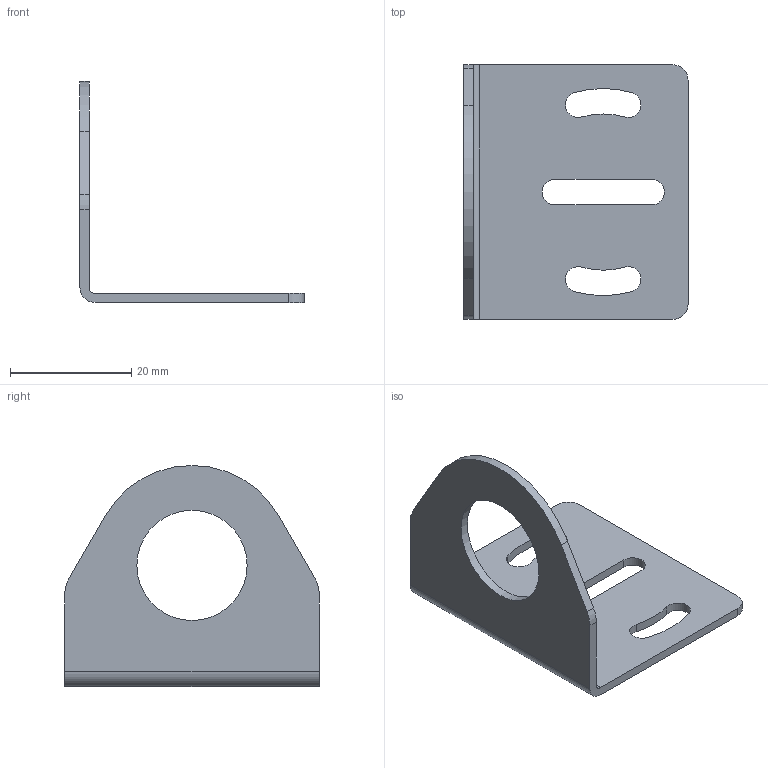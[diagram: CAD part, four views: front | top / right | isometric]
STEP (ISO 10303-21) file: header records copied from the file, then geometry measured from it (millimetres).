
FILE_DESCRIPTION( ( 'Unknown' ), '1' );
FILE_NAME( '//SRVMDFS14/Dati_CAD/Arch_Dis_Prodotti/Definitivi/Conversione_Fig/STP/ST18-C.stp', 'Unknown', ( 'Unknown' ), ( 'Unknown' ), 'PSStep 16.0.42', 'Unknown', ' ' );
FILE_SCHEMA( ( 'AUTOMOTIVE_DESIGN { 1 0 10303 214 1 1 1 1 }' ) );
Length unit declared in the file: millimetre
Products named in the file (1): 1
Bounding box: 37 x 42 x 36.5 mm (x, y, z)
Volume: 3439.3 mm3; surface area: 5135 mm2
Topology: 1 solids, 1 shells, 29 faces, 81 edges, 54 vertices
Faces by surface type: cylinder 18, plane 11
Full cylindrical faces by diameter (mm): 18.2 x1
Entity records: 1210 total; most frequent: DIRECTION 176, CARTESIAN_POINT 164, ORIENTED_EDGE 160, EDGE_CURVE 80, AXIS2_PLACEMENT_3D 66, VERTEX_POINT 54, LINE 44, VECTOR 44
